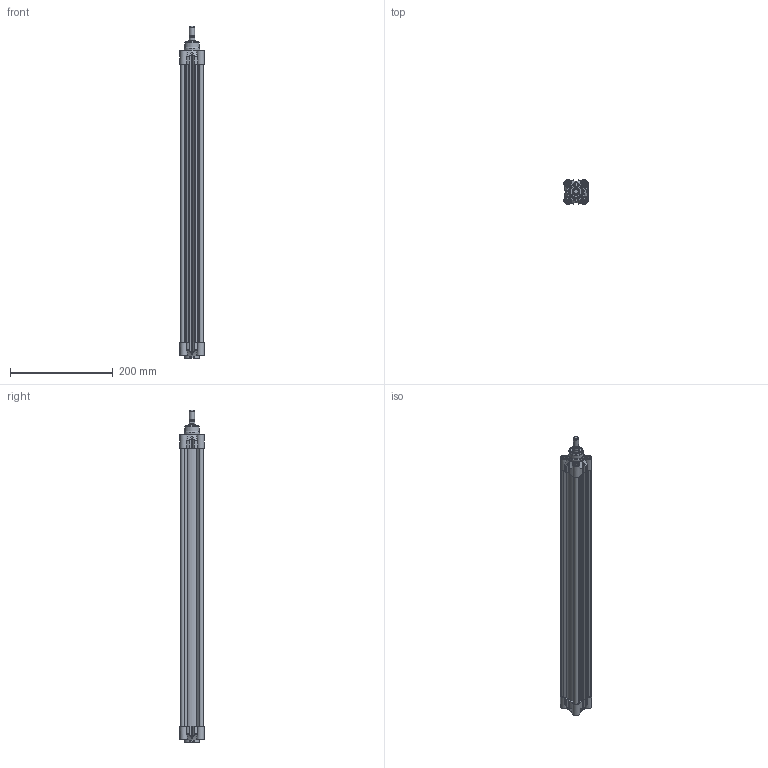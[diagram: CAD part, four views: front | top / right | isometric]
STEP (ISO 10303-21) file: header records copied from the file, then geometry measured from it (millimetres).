
FILE_DESCRIPTION(/* description */ ('CILINDRO D.E. MAGNETICO AMMORTIZZATO ISO 15552'),/* implementation_level */ '2;1');
FILE_NAME(/* name */ 'T:\Archivio Inventor\- 00 NUOVI STP PER SITO CON STELO CHE SI MUOVE\SERIE H - U\SERIE HDM\HDM032-TUBO NUOVO\HDM032.500.GS.M.stp',/* time_stamp */ '2018-07-25T14:29:22+02:00',/* author */ ('carlo.corazza'),/* organization */ (''),/* preprocessor_version */ 'ST-DEVELOPER v16.5',/* originating_system */ 'Autodesk Inventor 2017',/* authorisation */ '');
FILE_SCHEMA (('AUTOMOTIVE_DESIGN { 1 0 10303 214 3 1 1 }'));
Length unit declared in the file: millimetre
Products named in the file (5): HDM032.500.GS.M; TP; STELO-500; TA; CORPO-500
Assembly tree (4 placements, depth 2):
  HDM032.500.GS.M
    TP
    STELO-500
    TA
    CORPO-500
Bounding box: 47 x 47 x 646 mm (x, y, z)
Volume: 431537.7 mm3; surface area: 319272.4 mm2
Topology: 4 solids, 18 shells, 969 faces, 2356 edges, 1494 vertices
Faces by surface type: plane 330, cylinder 260, bspline 190, cone 86, torus 83, sphere 20
Full cylindrical faces by diameter (mm): 2 x2, 2.1 x2, 4 x2, 4.5 x2, 4.917 x8, 6 x8, 6.2 x8, 6.3 x4, 7 x2, 7.8 x4, 7.9 x3, 8 x4, 8.566 x2, 10 x9, 10.3 x8, 11.6 x1, 12 x1, 12.8 x1, 12.847 x1, 16 x1, 17 x2, 22 x3, 28 x1, 30 x2, 32 x1
Entity records: 31186 total; most frequent: CARTESIAN_POINT 9171, ORIENTED_EDGE 4162, DIRECTION 4048, EDGE_CURVE 2081, AXIS2_PLACEMENT_3D 1569, VERTEX_POINT 1436, EDGE_LOOP 1302, FACE_OUTER_BOUND 969
